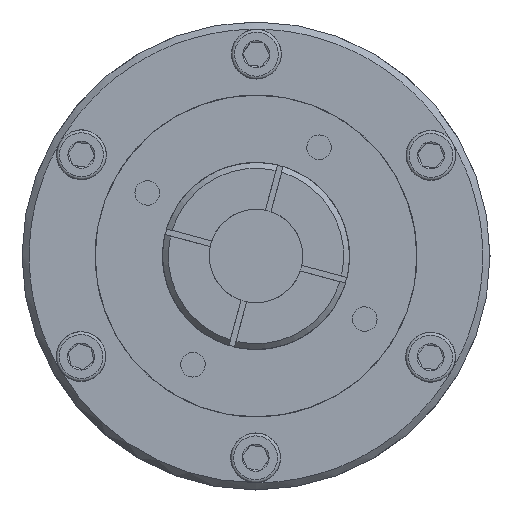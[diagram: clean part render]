
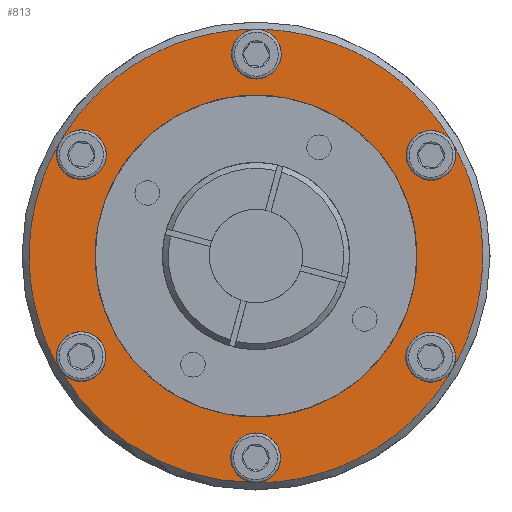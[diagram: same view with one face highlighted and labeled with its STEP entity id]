
A CAD part, left-side view. The second image highlights one B-rep face of the part: STEP entity #813.
In plain terms, the highlighted planar face has unit normal (-1, 0, 0).
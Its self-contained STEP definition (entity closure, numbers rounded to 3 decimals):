
#813 = ADVANCED_FACE( '', ( #1556, #1557 ), #1558, .F. );
#1556 = FACE_OUTER_BOUND( '', #2671, .T. );
#1557 = FACE_BOUND( '', #2672, .T. );
#1558 = PLANE( '', #2673 );
#2671 = EDGE_LOOP( '', ( #4120, #4121, #4122, #4123, #4124, #4125, #4126, #4127, #4128, #4129, #4130, #4131 ) );
#2672 = EDGE_LOOP( '', ( #4132 ) );
#2673 = AXIS2_PLACEMENT_3D( '', #4133, #4134, #4135 );
#4120 = ORIENTED_EDGE( '', *, *, #6734, .T. );
#4121 = ORIENTED_EDGE( '', *, *, #6727, .T. );
#4122 = ORIENTED_EDGE( '', *, *, #6735, .T. );
#4123 = ORIENTED_EDGE( '', *, *, #6726, .T. );
#4124 = ORIENTED_EDGE( '', *, *, #6732, .T. );
#4125 = ORIENTED_EDGE( '', *, *, #6731, .T. );
#4126 = ORIENTED_EDGE( '', *, *, #6736, .T. );
#4127 = ORIENTED_EDGE( '', *, *, #6730, .T. );
#4128 = ORIENTED_EDGE( '', *, *, #6737, .T. );
#4129 = ORIENTED_EDGE( '', *, *, #6729, .T. );
#4130 = ORIENTED_EDGE( '', *, *, #6738, .T. );
#4131 = ORIENTED_EDGE( '', *, *, #6728, .T. );
#4132 = ORIENTED_EDGE( '', *, *, #6739, .F. );
#4133 = CARTESIAN_POINT( '', ( -13.499, 40., 0. ) );
#4134 = DIRECTION( '', ( 1., 0., 0. ) );
#4135 = DIRECTION( '', ( 0., 1., 0. ) );
#6726 = EDGE_CURVE( '', #7735, #7736, #7737, .F. );
#6727 = EDGE_CURVE( '', #7738, #7735, #7739, .F. );
#6728 = EDGE_CURVE( '', #7740, #7738, #7741, .F. );
#6729 = EDGE_CURVE( '', #7742, #7740, #7743, .F. );
#6730 = EDGE_CURVE( '', #7744, #7742, #7745, .F. );
#6731 = EDGE_CURVE( '', #7736, #7744, #7746, .F. );
#6732 = EDGE_CURVE( '', #7736, #7736, #7747, .T. );
#6734 = EDGE_CURVE( '', #7738, #7738, #7750, .T. );
#6735 = EDGE_CURVE( '', #7735, #7735, #7751, .T. );
#6736 = EDGE_CURVE( '', #7744, #7744, #7752, .T. );
#6737 = EDGE_CURVE( '', #7742, #7742, #7753, .T. );
#6738 = EDGE_CURVE( '', #7740, #7740, #7754, .T. );
#6739 = EDGE_CURVE( '', #7755, #7755, #7756, .F. );
#7735 = VERTEX_POINT( '', #9475 );
#7736 = VERTEX_POINT( '', #9476 );
#7737 = CIRCLE( '', #9477, 38.75 );
#7738 = VERTEX_POINT( '', #9478 );
#7739 = CIRCLE( '', #9479, 38.75 );
#7740 = VERTEX_POINT( '', #9480 );
#7741 = CIRCLE( '', #9481, 38.75 );
#7742 = VERTEX_POINT( '', #9482 );
#7743 = CIRCLE( '', #9483, 38.75 );
#7744 = VERTEX_POINT( '', #9484 );
#7745 = CIRCLE( '', #9485, 38.75 );
#7746 = CIRCLE( '', #9486, 38.75 );
#7747 = CIRCLE( '', #9487, 4.25 );
#7750 = CIRCLE( '', #9490, 4.25 );
#7751 = CIRCLE( '', #9491, 4.25 );
#7752 = CIRCLE( '', #9492, 4.25 );
#7753 = CIRCLE( '', #9493, 4.25 );
#7754 = CIRCLE( '', #9494, 4.25 );
#7755 = VERTEX_POINT( '', #9495 );
#7756 = CIRCLE( '', #9496, 27.5 );
#9475 = CARTESIAN_POINT( '', ( -13.499, 33.558, 19.375 ) );
#9476 = CARTESIAN_POINT( '', ( -13.499, 33.558, -19.375 ) );
#9477 = AXIS2_PLACEMENT_3D( '', #11838, #11839, #11840 );
#9478 = CARTESIAN_POINT( '', ( -13.499, 0., 38.75 ) );
#9479 = AXIS2_PLACEMENT_3D( '', #11841, #11842, #11843 );
#9480 = CARTESIAN_POINT( '', ( -13.499, -33.558, 19.375 ) );
#9481 = AXIS2_PLACEMENT_3D( '', #11844, #11845, #11846 );
#9482 = CARTESIAN_POINT( '', ( -13.499, -33.558, -19.375 ) );
#9483 = AXIS2_PLACEMENT_3D( '', #11847, #11848, #11849 );
#9484 = CARTESIAN_POINT( '', ( -13.499, 0., -38.75 ) );
#9485 = AXIS2_PLACEMENT_3D( '', #11850, #11851, #11852 );
#9486 = AXIS2_PLACEMENT_3D( '', #11853, #11854, #11855 );
#9487 = AXIS2_PLACEMENT_3D( '', #11856, #11857, #11858 );
#9490 = AXIS2_PLACEMENT_3D( '', #11862, #11863, #11864 );
#9491 = AXIS2_PLACEMENT_3D( '', #11865, #11866, #11867 );
#9492 = AXIS2_PLACEMENT_3D( '', #11868, #11869, #11870 );
#9493 = AXIS2_PLACEMENT_3D( '', #11871, #11872, #11873 );
#9494 = AXIS2_PLACEMENT_3D( '', #11874, #11875, #11876 );
#9495 = CARTESIAN_POINT( '', ( -13.499, 0., -27.5 ) );
#9496 = AXIS2_PLACEMENT_3D( '', #11877, #11878, #11879 );
#11838 = CARTESIAN_POINT( '', ( -13.499, 0., 0. ) );
#11839 = DIRECTION( '', ( 1., 0., 0. ) );
#11840 = DIRECTION( '', ( 0., 0., -1. ) );
#11841 = CARTESIAN_POINT( '', ( -13.499, 0., 0. ) );
#11842 = DIRECTION( '', ( 1., 0., 0. ) );
#11843 = DIRECTION( '', ( 0., 0., -1. ) );
#11844 = CARTESIAN_POINT( '', ( -13.499, 0., 0. ) );
#11845 = DIRECTION( '', ( 1., 0., 0. ) );
#11846 = DIRECTION( '', ( 0., 0., -1. ) );
#11847 = CARTESIAN_POINT( '', ( -13.499, 0., 0. ) );
#11848 = DIRECTION( '', ( 1., 0., 0. ) );
#11849 = DIRECTION( '', ( 0., 0., -1. ) );
#11850 = CARTESIAN_POINT( '', ( -13.499, 0., 0. ) );
#11851 = DIRECTION( '', ( 1., 0., 0. ) );
#11852 = DIRECTION( '', ( 0., 0., -1. ) );
#11853 = CARTESIAN_POINT( '', ( -13.499, 0., 0. ) );
#11854 = DIRECTION( '', ( 1., 0., 0. ) );
#11855 = DIRECTION( '', ( 0., 0., -1. ) );
#11856 = CARTESIAN_POINT( '', ( -13.499, 29.878, -17.25 ) );
#11857 = DIRECTION( '', ( 1., 0., 0. ) );
#11858 = DIRECTION( '', ( 0., 0., -1. ) );
#11862 = CARTESIAN_POINT( '', ( -13.499, 0., 34.5 ) );
#11863 = DIRECTION( '', ( 1., 0., 0. ) );
#11864 = DIRECTION( '', ( 0., 0., -1. ) );
#11865 = CARTESIAN_POINT( '', ( -13.499, 29.878, 17.25 ) );
#11866 = DIRECTION( '', ( 1., 0., 0. ) );
#11867 = DIRECTION( '', ( 0., 0., -1. ) );
#11868 = CARTESIAN_POINT( '', ( -13.499, 0., -34.5 ) );
#11869 = DIRECTION( '', ( 1., 0., 0. ) );
#11870 = DIRECTION( '', ( 0., 0., -1. ) );
#11871 = CARTESIAN_POINT( '', ( -13.499, -29.878, -17.25 ) );
#11872 = DIRECTION( '', ( 1., 0., 0. ) );
#11873 = DIRECTION( '', ( 0., 0., -1. ) );
#11874 = CARTESIAN_POINT( '', ( -13.499, -29.878, 17.25 ) );
#11875 = DIRECTION( '', ( 1., 0., 0. ) );
#11876 = DIRECTION( '', ( 0., 0., -1. ) );
#11877 = CARTESIAN_POINT( '', ( -13.499, 0., 0. ) );
#11878 = DIRECTION( '', ( 1., 0., 0. ) );
#11879 = DIRECTION( '', ( 0., 0., -1. ) );
